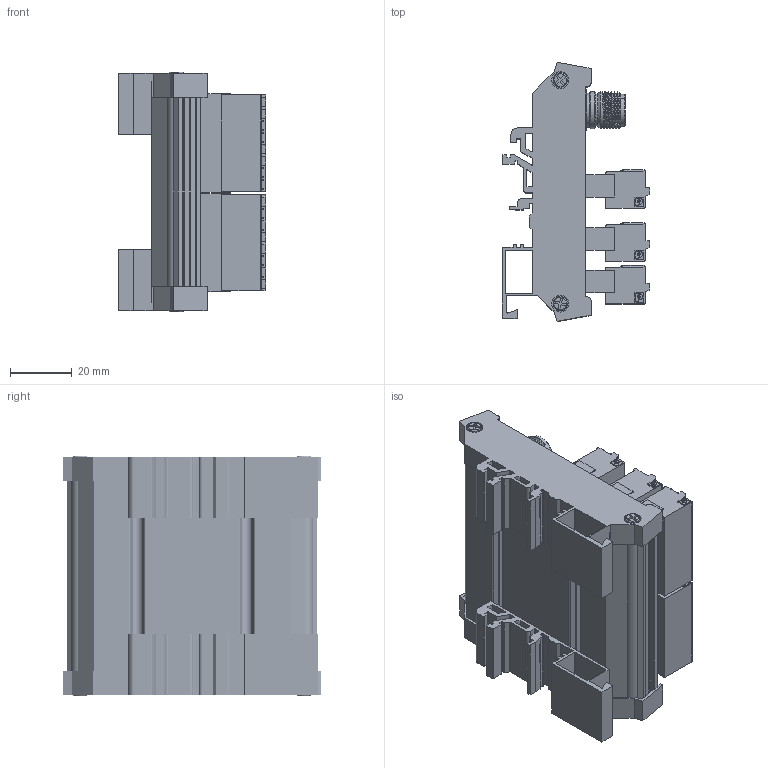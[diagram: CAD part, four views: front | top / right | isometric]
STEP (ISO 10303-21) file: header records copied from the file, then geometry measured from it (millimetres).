
FILE_DESCRIPTION((''),'2;1');
FILE_NAME('00BS11','2023-04-07T',('PC'),(''),'PRO/ENGINEER BY PARAMETRIC TECHNOLOGY CORPORATION, 2009220','PRO/ENGINEER BY PARAMETRIC TECHNOLOGY CORPORATION, 2009220','');
FILE_SCHEMA(('CONFIG_CONTROL_DESIGN'));
Products named in the file (1): 00BS11
Bounding box: 47.8 x 84 x 77.8 mm (x, y, z)
Volume: 89258.5 mm3; surface area: 72601 mm2
Topology: 1 solids, 13 shells, 4899 faces, 13633 edges, 8954 vertices
Faces by surface type: plane 2746, cylinder 1396, cone 347, extrusion 271, sphere 48, bspline 47, torus 44
Entity records: 172871 total; most frequent: CARTESIAN_POINT 46120, ORIENTED_EDGE 27170, DIRECTION 25761, EDGE_CURVE 13585, VERTEX_POINT 8954, VECTOR 8693, AXIS2_PLACEMENT_3D 8534, LINE 8422
